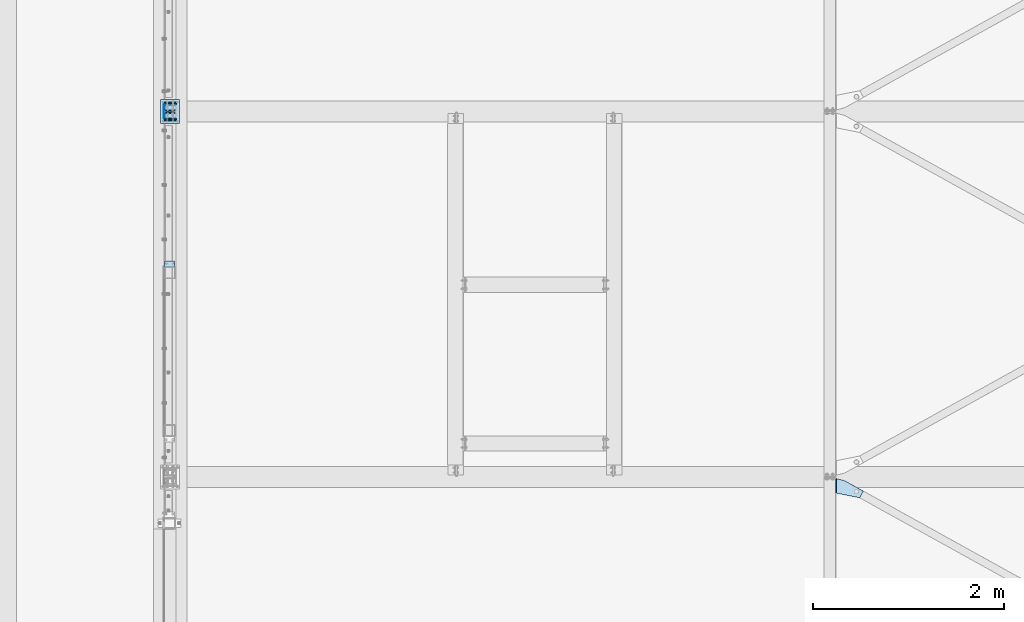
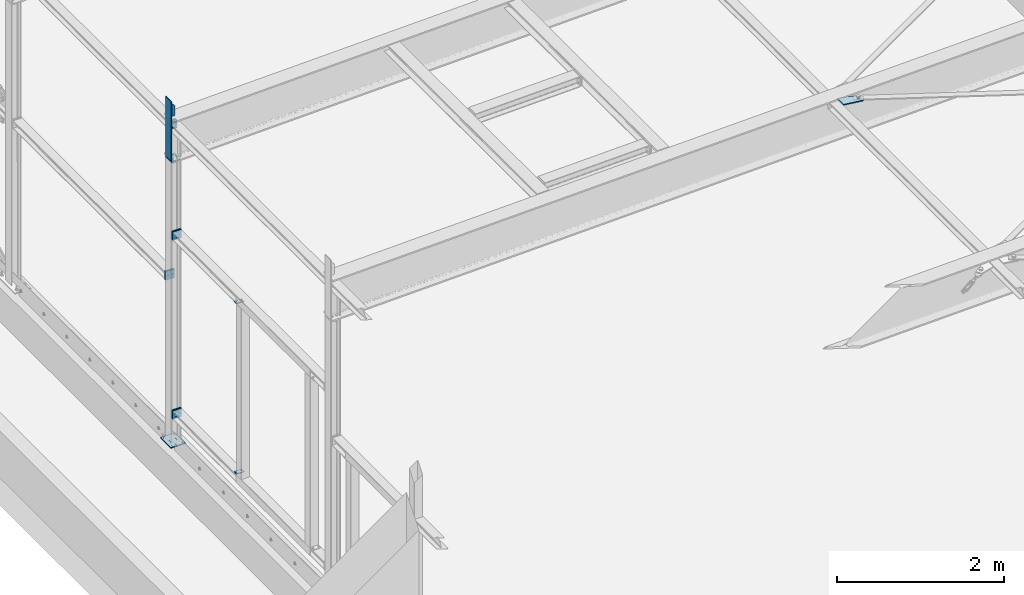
# One storey, part 37 of 476: 15 plates, 61 openings.
"""IFC2X3 building model written with IfcOpenShell, lengths in millimetres."""

import ifcopenshell
import ifcopenshell.guid

model = None  # the IFC model being written
_history = None  # IfcOwnerHistory: only IFC2X3 demands one
_inside = {}  # id of a spatial element -> (the spatial element, [elements in it])
_under = {}  # id of a project, library or spatial element -> (it, [spatial elements below it])
_declared = {}  # id of a project -> (the project, [libraries it declares])
_typed = {}  # id of a type object -> (the type object, [elements of that type])
_made_of = {}  # id of a material, layer set ... -> (it, [elements and type objects made of it])


def new_model(schema):
    """Start an empty IFC model of exactly this schema.

    Asked for "IFC4X3", IfcOpenShell would pick the latest addendum, in which some entities
    have other attributes; the version numbers below select the first issue.
    IFC2X3 requires an IfcOwnerHistory on every rooted entity: one is made here for all.
    """
    global model, _history
    if schema == "IFC4X3":
        model = ifcopenshell.file(schema_version=(4, 3, 0, 0))
    else:
        model = ifcopenshell.file(schema=schema)
    _inside.clear()
    _under.clear()
    _declared.clear()
    _typed.clear()
    _made_of.clear()
    _history = None
    if model.schema == "IFC2X3":
        org = make("IfcOrganization", Name="unknown")
        user = make(
            "IfcPersonAndOrganization",
            ThePerson=make("IfcPerson", FamilyName="unknown"),
            TheOrganization=org,
        )
        app = make(
            "IfcApplication",
            ApplicationDeveloper=org,
            Version="unknown",
            ApplicationFullName="unknown",
            ApplicationIdentifier="unknown",
        )
        _history = make(
            "IfcOwnerHistory",
            OwningUser=user,
            OwningApplication=app,
            ChangeAction="ADDED",
            CreationDate=0,
        )
    return model


def make(cls, **values):
    """One entity of the class cls with the attributes given. An attribute that is None is left unset."""
    return model.create_entity(
        cls, **{name: value for name, value in values.items() if value is not None}
    )


def entity(cls, *values):
    """Any entity or typed value of the class cls, its attributes in the order of the schema. None: left unset."""
    e = model.create_entity(cls)
    for i, value in enumerate(values):
        if value is not None:
            e[i] = value
    return e


def rooted(cls, **values):
    """An entity with a GlobalId (a new one), such as an element, a storey or a relation."""
    return make(cls, GlobalId=ifcopenshell.guid.new(), OwnerHistory=_history, **values)


def si_unit(unit_type, name, prefix=None):
    """IfcSIUnit, for example si_unit("LENGTHUNIT", "METRE", prefix="MILLI")."""
    return make("IfcSIUnit", UnitType=unit_type, Prefix=prefix, Name=name)


def converted_unit(unit_type, name, factor, base, dimensions=None, offset=None):
    """IfcConversionBasedUnit, such as the inch: factor (a typed value) times the base unit."""
    return make(
        "IfcConversionBasedUnit"
        if offset is None
        else "IfcConversionBasedUnitWithOffset",
        ConversionOffset=offset,
        Dimensions=None
        if dimensions is None
        else entity("IfcDimensionalExponents", *dimensions),
        UnitType=unit_type,
        Name=name,
        ConversionFactor=make(
            "IfcMeasureWithUnit", ValueComponent=factor, UnitComponent=base
        ),
    )


def assignment(units):
    """IfcUnitAssignment: the units of a project."""
    return None if units is None else make("IfcUnitAssignment", Units=units)


def point(xyz):
    """IfcCartesianPoint."""
    return None if xyz is None else make("IfcCartesianPoint", Coordinates=xyz)


def direction(xyz):
    """IfcDirection."""
    return None if xyz is None else make("IfcDirection", DirectionRatios=xyz)


def frame(location, z_axis=None, x_axis=None):
    """IfcAxis2Placement3D, a coordinate frame: its origin and axes. An axis left out is left unset."""
    return make(
        "IfcAxis2Placement3D",
        Location=point(location),
        Axis=direction(z_axis),
        RefDirection=direction(x_axis),
    )


def frame_2d(location, x_axis=None):
    """IfcAxis2Placement2D, a coordinate frame in the plane: its origin and x axis."""
    return make(
        "IfcAxis2Placement2D", Location=point(location), RefDirection=direction(x_axis)
    )


def origin():
    """The frame at (0, 0, 0) with its axes left unset."""
    return frame((0.0, 0.0, 0.0))


def origin_with_axes():
    """The frame at (0, 0, 0) with the z axis (0, 0, 1) and the x axis (1, 0, 0) written out."""
    return frame((0.0, 0.0, 0.0), z_axis=(0.0, 0.0, 1.0), x_axis=(1.0, 0.0, 0.0))


def origin_2d_with_axis():
    """The frame at (0, 0) in the plane with the x axis (1, 0) written out."""
    return frame_2d((0.0, 0.0), x_axis=(1.0, 0.0))


def place(relative_to, where):
    """IfcLocalPlacement: puts the frame where relative to a parent placement (None: the world)."""
    return make(
        "IfcLocalPlacement", PlacementRelTo=relative_to, RelativePlacement=where
    )


def context(
    kind, dimensions, precision=None, world=None, true_north=None, identifier=None
):
    """IfcGeometricRepresentationContext, for example the 3D "Model" context."""
    return make(
        "IfcGeometricRepresentationContext",
        ContextIdentifier=identifier,
        ContextType=kind,
        CoordinateSpaceDimension=dimensions,
        Precision=precision,
        WorldCoordinateSystem=world,
        TrueNorth=true_north,
    )


def project(units=None, contexts=None):
    """IfcProject with its units and contexts."""
    return rooted(
        "IfcProject",
        Name="project",
        RepresentationContexts=contexts,
        UnitsInContext=assignment(units),
    )


def spatial(cls, under=None, at=None, **own):
    """A site, building, storey or space (cls), placed at a placement, below another one or the project."""
    s = rooted(cls, ObjectPlacement=at, **own)
    if under is not None:
        _under.setdefault(under.id(), (under, []))[1].append(s)
    return s


def polyline(points):
    """IfcPolyline through the points."""
    return make("IfcPolyline", Points=[point(p) for p in points])


def circle_curve(where, radius):
    """IfcCircle in the frame where."""
    return make("IfcCircle", Position=where, Radius=radius)


def line_curve(start, along, magnitude):
    """IfcLine from a point along a vector."""
    return make(
        "IfcLine",
        Pnt=point(start),
        Dir=make("IfcVector", Orientation=direction(along), Magnitude=magnitude),
    )


def trimmed(basis, trim1, trim2, sense, master):
    """IfcTrimmedCurve: the piece of a basis curve between two trims."""
    return make(
        "IfcTrimmedCurve",
        BasisCurve=basis,
        Trim1=trim1,
        Trim2=trim2,
        SenseAgreement=sense,
        MasterRepresentation=master,
    )


def segment(curve, same_sense, transition):
    """IfcCompositeCurveSegment."""
    return make(
        "IfcCompositeCurveSegment",
        Transition=transition,
        SameSense=same_sense,
        ParentCurve=curve,
    )


def composite_curve(segments, self_intersect=None):
    """IfcCompositeCurve: segments joined end to end."""
    return make("IfcCompositeCurve", Segments=segments, SelfIntersect=self_intersect)


def profile(cls, at=None, kind="AREA", **sizes):
    """A parametric profile (cls). Its sizes go by their IFC names, for example OverallWidth=200.0."""
    return make(cls, ProfileType=kind, Position=at, **sizes)


def circle(**sizes):
    """IfcCircleProfileDef."""
    return profile("IfcCircleProfileDef", **sizes)


def outline(outer, holes=None, kind="AREA"):
    """IfcArbitraryClosedProfileDef: a profile drawn as a closed curve; with holes, ...WithVoids."""
    if holes is None:
        return make("IfcArbitraryClosedProfileDef", ProfileType=kind, OuterCurve=outer)
    return make(
        "IfcArbitraryProfileDefWithVoids",
        ProfileType=kind,
        OuterCurve=outer,
        InnerCurves=holes,
    )


def extrude(swept, where, along, depth):
    """IfcExtrudedAreaSolid: the profile swept, set in the frame where, extruded along a direction by depth."""
    return make(
        "IfcExtrudedAreaSolid",
        SweptArea=swept,
        Position=where,
        ExtrudedDirection=direction(along),
        Depth=depth,
    )


def shape(context_of_items, identifier, shape_type, items):
    """IfcShapeRepresentation: the items that make up one representation, for example the "Body"."""
    return make(
        "IfcShapeRepresentation",
        ContextOfItems=context_of_items,
        RepresentationIdentifier=identifier,
        RepresentationType=shape_type,
        Items=items,
    )


def material(Name=None, Category=None):
    """IfcMaterial."""
    return make("IfcMaterial", Name=Name, Category=Category)


def layer(
    of_material, thickness, ventilated=None, Name=None, Category=None, Priority=None
):
    """IfcMaterialLayer: one layer of a wall or slab, of a material (None: an air gap)."""
    return make(
        "IfcMaterialLayer",
        Material=of_material,
        LayerThickness=thickness,
        IsVentilated=ventilated,
        Name=Name,
        Category=Category,
        Priority=Priority,
    )


def layer_set(layers, Name=None):
    """IfcMaterialLayerSet."""
    return make("IfcMaterialLayerSet", MaterialLayers=layers, LayerSetName=Name)


def made_of(thing, what):
    """Note that an element or type object is made of a material, layer set ...; save() writes the relation."""
    if what is not None:
        _made_of.setdefault(what.id(), (what, []))[1].append(thing)
    return thing


def element(
    cls,
    number,
    at=None,
    inside=None,
    cuts=None,
    type_object=None,
    material=None,
    context=None,
    identifier="Body",
    shape_type=None,
    held_by="IfcProductDefinitionShape",
    body=None,
    shapes=None,
    **own,
):
    """One element of the class cls, such as IfcWall. Its Tag is "e" and its number.

    at: its placement. inside: the storey or other place that contains it. cuts: it is an
    opening in that element (IfcRelVoidsElement). A single representation is given by context,
    identifier, shape_type and body (its items); several are given by shapes. held_by: the class
    of the entity that holds the representations. save() writes the other relations.
    """
    e = rooted(cls, Tag="e%d" % number, ObjectPlacement=at, **own)
    if body is not None:
        shapes = [shape(context, identifier, shape_type, body)]
    if shapes is not None:
        e.Representation = make(held_by, Representations=shapes)
    if inside is not None:
        _inside.setdefault(inside.id(), (inside, []))[1].append(e)
    if cuts is not None:
        rooted(
            "IfcRelVoidsElement", RelatingBuildingElement=cuts, RelatedOpeningElement=e
        )
    if type_object is not None:
        _typed.setdefault(type_object.id(), (type_object, []))[1].append(e)
    return made_of(e, material)


def aggregate(whole, parts):
    """IfcRelAggregates: a whole, such as a stair, and the parts it consists of."""
    return rooted("IfcRelAggregates", RelatingObject=whole, RelatedObjects=parts)


def save(model, path):
    """Write the relations noted so far, then the file.

    IfcRelAggregates (storeys below a building ...), IfcRelContainedInSpatialStructure (elements
    in a storey), IfcRelDefinesByType, IfcRelAssociatesMaterial and IfcRelDeclares: one each for
    every whole, place, type object, material and project.
    """
    for whole, parts in _under.values():
        aggregate(whole, parts)
    for where, things in _inside.values():
        rooted(
            "IfcRelContainedInSpatialStructure",
            RelatedElements=things,
            RelatingStructure=where,
        )
    for kind, things in _typed.values():
        rooted("IfcRelDefinesByType", RelatedObjects=things, RelatingType=kind)
    for what, things in _made_of.values():
        rooted("IfcRelAssociatesMaterial", RelatedObjects=things, RelatingMaterial=what)
    for by, libraries in _declared.values():
        rooted("IfcRelDeclares", RelatingContext=by, RelatedDefinitions=libraries)
    model.write(path)


model = new_model("IFC2X3")

# Units and contexts
model_context = context("Model", 3, precision=1e-09, world=origin_with_axes())
ifc_project = project(units=[si_unit("LENGTHUNIT", "METRE", prefix="MILLI"), si_unit("AREAUNIT", "SQUARE_METRE"), si_unit("VOLUMEUNIT", "CUBIC_METRE"), converted_unit("PLANEANGLEUNIT", "DEGREE", entity("IfcPlaneAngleMeasure", 0.01745329), si_unit("PLANEANGLEUNIT", "RADIAN"), dimensions=[0, 0, 0, 0, 0, 0, 0])], contexts=[model_context])

# Site, building, storey
site_placement = place(None, origin_with_axes())
site = spatial("IfcSite", under=ifc_project, at=site_placement, Name="mKR Teilneubau & Sanierung BA1 - Ostfildern", CompositionType="ELEMENT")
building_placement = place(site_placement, origin_with_axes())
building = spatial("IfcBuilding", under=site, at=building_placement, Name="Struktur 1", CompositionType="ELEMENT")
storey_placement = place(building_placement, origin_with_axes())
storey = spatial("IfcBuildingStorey", under=building, at=storey_placement, Name="Default Storey", CompositionType="ELEMENT", Elevation=0.0)

# Plate, openings
ifc_material = material(Name="S235JR")
ifc_layer_1 = layer(ifc_material, 10.0)
ifc_layer_set_1 = layer_set([ifc_layer_1], Name="S235JR")
plate_1_placement = place(None, frame((8215.108804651, -15130.316467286, 3539.999982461), z_axis=(0.0, 0.0, -1.0), x_axis=(0.0, -1.0, 0.0)))
plate_1 = element("IfcPlate", 1, at=plate_1_placement, inside=storey, material=ifc_layer_set_1, Name="Endplate", ObjectType="Endplate", context=model_context, shape_type="SweptSolid", body=[
    extrude(outline(polyline([(20.0, 2.5), (80.0, 2.5), (80.0, 109.5), (20.0, 109.5), (20.0, 2.5)])), origin_with_axes(), (0.0, 0.0, 1.0), 10.0),
])
opening_1_placement = place(plate_1_placement, frame((45.0, 56.0, 10.5), z_axis=(0.0, 0.0, -1.0), x_axis=(1.0, 0.0, 0.0)))
element("IfcOpeningElement", 2, at=opening_1_placement, cuts=plate_1, ObjectType="Opening", context=model_context, shape_type="SweptSolid", body=[
    extrude(circle(Radius=6.501, at=frame_2d((0.0, 35.0), x_axis=(1.0, 0.0))), origin(), (0.0, 0.0, 1.0), 11.0),
])
opening_2_placement = place(plate_1_placement, frame((45.0, 56.0, 10.5), z_axis=(0.0, 0.0, -1.0), x_axis=(1.0, 0.0, 0.0)))
element("IfcOpeningElement", 3, at=opening_2_placement, cuts=plate_1, ObjectType="Opening", context=model_context, shape_type="SweptSolid", body=[
    extrude(circle(Radius=6.501, at=frame_2d((0.0, -35.0), x_axis=(1.0, 0.0))), origin(), (0.0, 0.0, 1.0), 11.0),
])

plate_2_placement = place(None, frame((8215.108804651, -15130.316467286, 1040.0), z_axis=(0.0, 0.0, -1.0), x_axis=(0.0, -1.0, 0.0)))
plate_2 = element("IfcPlate", 4, at=plate_2_placement, inside=storey, material=ifc_layer_set_1, Name="Endplate", ObjectType="Endplate", context=model_context, shape_type="SweptSolid", body=[
    extrude(outline(polyline([(20.0, 2.5), (80.0, 2.5), (80.0, 109.5), (20.0, 109.5), (20.0, 2.5)])), origin_with_axes(), (0.0, 0.0, -1.0), 10.0),
])
opening_3_placement = place(plate_2_placement, frame((45.0, 56.0, 0.5), z_axis=(0.0, 0.0, -1.0), x_axis=(1.0, 0.0, 0.0)))
element("IfcOpeningElement", 5, at=opening_3_placement, cuts=plate_2, ObjectType="Opening", context=model_context, shape_type="SweptSolid", body=[
    extrude(circle(Radius=6.501, at=frame_2d((0.0, 35.0), x_axis=(1.0, 0.0))), origin(), (0.0, 0.0, 1.0), 11.0),
])
opening_4_placement = place(plate_2_placement, frame((45.0, 56.0, 0.5), z_axis=(0.0, 0.0, -1.0), x_axis=(1.0, 0.0, 0.0)))
element("IfcOpeningElement", 6, at=opening_4_placement, cuts=plate_2, ObjectType="Opening", context=model_context, shape_type="SweptSolid", body=[
    extrude(circle(Radius=6.501, at=frame_2d((0.0, -35.0), x_axis=(1.0, 0.0))), origin(), (0.0, 0.0, 1.0), 11.0),
])

plate_3_placement = place(None, frame((8189.108764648, -13580.67387897, 5472.548796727), z_axis=(0.0, -1.0, 0.0), x_axis=(-1.0, 0.0, 0.0)))
plate_3 = element("IfcPlate", 7, at=plate_3_placement, inside=storey, material=ifc_layer_set_1, Name="-", ObjectType="-", context=model_context, shape_type="SweptSolid", body=[
    extrude(outline(polyline([(0.0, 0.0), (80.0, 0.0), (80.0, 200.0), (0.0, 197.595559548), (0.0, 0.0)])), origin_with_axes(), (0.0, 0.0, 1.0), 10.0),
])
opening_5_placement = place(plate_3_placement, frame((0.0, 0.0, -0.01), z_axis=(0.0, 0.0, 1.0), x_axis=(1.0, 0.0, 0.0)))
element("IfcOpeningElement", 8, at=opening_5_placement, cuts=plate_3, ObjectType="Opening", context=model_context, shape_type="SweptSolid", body=[
    extrude(outline(polyline([(0.0, 0.0), (50.0, 0.0), (0.0, 50.0), (0.0, 0.0)])), origin(), (0.0, 0.0, 1.0), 10.02),
])
opening_6_placement = place(plate_3_placement, frame((0.0, 0.0, -0.01), z_axis=(0.0, 0.0, 1.0), x_axis=(1.0, 0.0, 0.0)))
element("IfcOpeningElement", 9, at=opening_6_placement, cuts=plate_3, ObjectType="Opening", context=model_context, shape_type="SweptSolid", body=[
    extrude(outline(polyline([(80.0, 200.0), (60.009027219, 199.399161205), (80.0, 180.0), (80.0, 200.0)])), origin(), (0.0, 0.0, 1.0), 10.02),
])

ifc_layer_2 = layer(ifc_material, 15.0)
ifc_layer_set_2 = layer_set([ifc_layer_2], Name="S235JR")
plate_4_placement = place(None, frame((8165.608780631, -13685.67387897, 3597.0), z_axis=(0.0, 1.0, 0.0), x_axis=(0.0, 0.0, -1.0)))
plate_4 = element("IfcPlate", 10, at=plate_4_placement, inside=storey, material=ifc_layer_set_2, Name="Endplate#1", ObjectType="Endplate#1", context=model_context, shape_type="SweptSolid", body=[
    extrude(outline(polyline([(-62.0, -62.0), (62.0, -62.0), (62.0, 62.0), (-62.0, 62.0), (-62.0, -62.0)])), origin_with_axes(), (0.0, 0.0, 1.0), 15.0),
])
opening_7_placement = place(plate_4_placement, frame((37.0, 14.5, 15.5), z_axis=(0.0, 0.0, -1.0), x_axis=(-1.0, 0.0, 0.0)))
element("IfcOpeningElement", 11, at=opening_7_placement, cuts=plate_4, ObjectType="Opening", context=model_context, shape_type="SweptSolid", body=[
    extrude(circle(Radius=6.001, at=origin_2d_with_axis()), origin(), (0.0, 0.0, 1.0), 16.0),
])
opening_8_placement = place(plate_4_placement, frame((-37.0, 14.5, 15.5), z_axis=(0.0, 0.0, -1.0), x_axis=(-1.0, 0.0, 0.0)))
element("IfcOpeningElement", 12, at=opening_8_placement, cuts=plate_4, ObjectType="Opening", context=model_context, shape_type="SweptSolid", body=[
    extrude(circle(Radius=6.001, at=origin_2d_with_axis()), origin(), (0.0, 0.0, 1.0), 16.0),
])
opening_9_placement = place(plate_4_placement, frame((-37.0, -14.5, 15.5), z_axis=(0.0, 0.0, -1.0), x_axis=(-1.0, 0.0, 0.0)))
element("IfcOpeningElement", 13, at=opening_9_placement, cuts=plate_4, ObjectType="Opening", context=model_context, shape_type="SweptSolid", body=[
    extrude(circle(Radius=6.001, at=origin_2d_with_axis()), origin(), (0.0, 0.0, 1.0), 16.0),
])
opening_10_placement = place(plate_4_placement, frame((37.0, -14.5, 15.5), z_axis=(0.0, 0.0, -1.0), x_axis=(-1.0, 0.0, 0.0)))
element("IfcOpeningElement", 14, at=opening_10_placement, cuts=plate_4, ObjectType="Opening", context=model_context, shape_type="SweptSolid", body=[
    extrude(circle(Radius=6.001, at=origin_2d_with_axis()), origin(), (0.0, 0.0, 1.0), 16.0),
])
opening_11_placement = place(plate_4_placement, frame((0.0, 30.0, 15.5), z_axis=(0.0, 0.0, -1.0), x_axis=(-1.0, 0.0, 0.0)))
element("IfcOpeningElement", 15, at=opening_11_placement, cuts=plate_4, ObjectType="Opening", context=model_context, shape_type="SweptSolid", body=[
    extrude(circle(Radius=7.001, at=origin_2d_with_axis()), origin(), (0.0, 0.0, 1.0), 16.0),
])
opening_12_placement = place(plate_4_placement, frame((0.0, -30.0, 15.5), z_axis=(0.0, 0.0, -1.0), x_axis=(0.0, -1.0, 0.0)))
element("IfcOpeningElement", 16, at=opening_12_placement, cuts=plate_4, ObjectType="Opening", context=model_context, shape_type="SweptSolid", body=[
    extrude(circle(Radius=7.001, at=origin_2d_with_axis()), origin(), (0.0, 0.0, 1.0), 16.0),
])

plate_5_placement = place(None, frame((8165.608764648, -13655.67387897, 3597.0), z_axis=(0.0, -1.0, 0.0), x_axis=(-1.0, 0.0, 0.0)))
plate_5 = element("IfcPlate", 17, at=plate_5_placement, inside=storey, material=ifc_layer_set_2, Name="T-plate", ObjectType="T-plate", context=model_context, shape_type="SweptSolid", body=[
    extrude(outline(polyline([(-62.0, -62.0), (62.0, -62.0), (62.0, 62.0), (-62.0, 62.0), (-62.0, -62.0)])), origin_with_axes(), (0.0, 0.0, 1.0), 15.0),
])
opening_13_placement = place(plate_5_placement, frame((29.999984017, 0.0, -0.5), z_axis=(0.0, 0.0, 1.0), x_axis=(0.0, -1.0, 0.0)))
element("IfcOpeningElement", 18, at=opening_13_placement, cuts=plate_5, ObjectType="Opening", context=model_context, shape_type="SweptSolid", body=[
    extrude(circle(Radius=7.001, at=origin_2d_with_axis()), origin(), (0.0, 0.0, 1.0), 16.0),
])
opening_14_placement = place(plate_5_placement, frame((-30.000015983, 0.0, -0.5), z_axis=(0.0, 0.0, 1.0), x_axis=(-1.0, 0.0, 0.0)))
element("IfcOpeningElement", 19, at=opening_14_placement, cuts=plate_5, ObjectType="Opening", context=model_context, shape_type="SweptSolid", body=[
    extrude(circle(Radius=7.001, at=origin_2d_with_axis()), origin(), (0.0, 0.0, 1.0), 16.0),
])

plate_6_placement = place(None, frame((8165.608780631, -13685.67387897, 983.0), z_axis=(0.0, 1.0, 0.0), x_axis=(0.0, 0.0, -1.0)))
plate_6 = element("IfcPlate", 20, at=plate_6_placement, inside=storey, material=ifc_layer_set_2, Name="Endplate#1", ObjectType="Endplate#1", context=model_context, shape_type="SweptSolid", body=[
    extrude(outline(polyline([(-62.0, -62.0), (62.0, -62.0), (62.0, 62.0), (-62.0, 62.0), (-62.0, -62.0)])), origin_with_axes(), (0.0, 0.0, 1.0), 15.0),
])
opening_15_placement = place(plate_6_placement, frame((37.0, 14.5, 15.5), z_axis=(0.0, 0.0, -1.0), x_axis=(-1.0, 0.0, 0.0)))
element("IfcOpeningElement", 21, at=opening_15_placement, cuts=plate_6, ObjectType="Opening", context=model_context, shape_type="SweptSolid", body=[
    extrude(circle(Radius=6.001, at=origin_2d_with_axis()), origin(), (0.0, 0.0, 1.0), 16.0),
])
opening_16_placement = place(plate_6_placement, frame((-37.0, 14.5, 15.5), z_axis=(0.0, 0.0, -1.0), x_axis=(-1.0, 0.0, 0.0)))
element("IfcOpeningElement", 22, at=opening_16_placement, cuts=plate_6, ObjectType="Opening", context=model_context, shape_type="SweptSolid", body=[
    extrude(circle(Radius=6.001, at=origin_2d_with_axis()), origin(), (0.0, 0.0, 1.0), 16.0),
])
opening_17_placement = place(plate_6_placement, frame((-37.0, -14.5, 15.5), z_axis=(0.0, 0.0, -1.0), x_axis=(-1.0, 0.0, 0.0)))
element("IfcOpeningElement", 23, at=opening_17_placement, cuts=plate_6, ObjectType="Opening", context=model_context, shape_type="SweptSolid", body=[
    extrude(circle(Radius=6.001, at=origin_2d_with_axis()), origin(), (0.0, 0.0, 1.0), 16.0),
])
opening_18_placement = place(plate_6_placement, frame((37.0, -14.5, 15.5), z_axis=(0.0, 0.0, -1.0), x_axis=(-1.0, 0.0, 0.0)))
element("IfcOpeningElement", 24, at=opening_18_placement, cuts=plate_6, ObjectType="Opening", context=model_context, shape_type="SweptSolid", body=[
    extrude(circle(Radius=6.001, at=origin_2d_with_axis()), origin(), (0.0, 0.0, 1.0), 16.0),
])
opening_19_placement = place(plate_6_placement, frame((0.0, -30.0, 15.5), z_axis=(0.0, 0.0, -1.0), x_axis=(0.0, -1.0, 0.0)))
element("IfcOpeningElement", 25, at=opening_19_placement, cuts=plate_6, ObjectType="Opening", context=model_context, shape_type="SweptSolid", body=[
    extrude(circle(Radius=7.001, at=origin_2d_with_axis()), origin(), (0.0, 0.0, 1.0), 16.0),
])
opening_20_placement = place(plate_6_placement, frame((0.0, 30.0, 15.5), z_axis=(0.0, 0.0, -1.0), x_axis=(-1.0, 0.0, 0.0)))
element("IfcOpeningElement", 26, at=opening_20_placement, cuts=plate_6, ObjectType="Opening", context=model_context, shape_type="SweptSolid", body=[
    extrude(circle(Radius=7.001, at=origin_2d_with_axis()), origin(), (0.0, 0.0, 1.0), 16.0),
])

plate_7_placement = place(None, frame((8165.608764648, -13655.67387897, 983.0), z_axis=(0.0, -1.0, 0.0), x_axis=(-1.0, 0.0, 0.0)))
plate_7 = element("IfcPlate", 27, at=plate_7_placement, inside=storey, material=ifc_layer_set_2, Name="T-plate", ObjectType="T-plate", context=model_context, shape_type="SweptSolid", body=[
    extrude(outline(polyline([(-62.0, -62.0), (62.0, -62.0), (62.0, 62.0), (-62.0, 62.0), (-62.0, -62.0)])), origin_with_axes(), (0.0, 0.0, 1.0), 15.0),
])
opening_21_placement = place(plate_7_placement, frame((-30.000015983, 0.0, -0.5), z_axis=(0.0, 0.0, 1.0), x_axis=(-1.0, 0.0, 0.0)))
element("IfcOpeningElement", 28, at=opening_21_placement, cuts=plate_7, ObjectType="Opening", context=model_context, shape_type="SweptSolid", body=[
    extrude(circle(Radius=7.001, at=origin_2d_with_axis()), origin(), (0.0, 0.0, 1.0), 16.0),
])
opening_22_placement = place(plate_7_placement, frame((29.999984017, 0.0, -0.5), z_axis=(0.0, 0.0, 1.0), x_axis=(0.0, -1.0, 0.0)))
element("IfcOpeningElement", 29, at=opening_22_placement, cuts=plate_7, ObjectType="Opening", context=model_context, shape_type="SweptSolid", body=[
    extrude(circle(Radius=7.001, at=origin_2d_with_axis()), origin(), (0.0, 0.0, 1.0), 16.0),
])

plate_8_placement = place(None, frame((8265.608764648, -13460.67387897, 540.0), z_axis=(0.0, 0.0, -1.0), x_axis=(0.0, -1.0, 0.0)))
plate_8 = element("IfcPlate", 30, at=plate_8_placement, inside=storey, material=ifc_layer_set_2, Name="Baseplate", ObjectType="Baseplate", context=model_context, shape_type="SweptSolid", body=[
    extrude(outline(polyline([(0.0, 0.0), (250.0, 0.0), (250.0, 200.0), (0.0, 200.0), (0.0, 0.0)])), origin_with_axes(), (0.0, 0.0, 1.0), 15.0),
])
opening_23_placement = place(plate_8_placement, frame((110.25, 146.0, 15.5), z_axis=(0.0, 0.0, -1.0), x_axis=(0.0, -1.0, 0.0)))
element("IfcOpeningElement", 31, at=opening_23_placement, cuts=plate_8, ObjectType="Opening", context=model_context, shape_type="SweptSolid", body=[
    extrude(circle(Radius=6.001, at=origin_2d_with_axis()), origin(), (0.0, 0.0, 1.0), 16.0),
])
opening_24_placement = place(plate_8_placement, frame((110.25, 54.0, 15.5), z_axis=(0.0, 0.0, -1.0), x_axis=(0.0, -1.0, 0.0)))
element("IfcOpeningElement", 32, at=opening_24_placement, cuts=plate_8, ObjectType="Opening", context=model_context, shape_type="SweptSolid", body=[
    extrude(circle(Radius=6.001, at=origin_2d_with_axis()), origin(), (0.0, 0.0, 1.0), 16.0),
])
opening_25_placement = place(plate_8_placement, frame((139.75, 54.0, 15.5), z_axis=(0.0, 0.0, -1.0), x_axis=(0.0, -1.0, 0.0)))
element("IfcOpeningElement", 33, at=opening_25_placement, cuts=plate_8, ObjectType="Opening", context=model_context, shape_type="SweptSolid", body=[
    extrude(circle(Radius=6.001, at=origin_2d_with_axis()), origin(), (0.0, 0.0, 1.0), 16.0),
])
opening_26_placement = place(plate_8_placement, frame((139.75, 146.0, 15.5), z_axis=(0.0, 0.0, -1.0), x_axis=(0.0, -1.0, 0.0)))
element("IfcOpeningElement", 34, at=opening_26_placement, cuts=plate_8, ObjectType="Opening", context=model_context, shape_type="SweptSolid", body=[
    extrude(circle(Radius=6.001, at=origin_2d_with_axis()), origin(), (0.0, 0.0, 1.0), 16.0),
])
opening_27_placement = place(plate_8_placement, frame((125.0, 100.0, 15.5), z_axis=(0.0, 0.0, -1.0), x_axis=(1.0, 0.0, 0.0)))
element("IfcOpeningElement", 35, at=opening_27_placement, cuts=plate_8, ObjectType="Opening", context=model_context, shape_type="SweptSolid", body=[
    extrude(circle(Radius=6.001, at=frame_2d((100.0, 75.0), x_axis=(1.0, 0.0))), origin(), (0.0, 0.0, 1.0), 16.0),
])
opening_28_placement = place(plate_8_placement, frame((125.0, 100.0, 15.5), z_axis=(0.0, 0.0, -1.0), x_axis=(1.0, 0.0, 0.0)))
element("IfcOpeningElement", 36, at=opening_28_placement, cuts=plate_8, ObjectType="Opening", context=model_context, shape_type="SweptSolid", body=[
    extrude(circle(Radius=6.001, at=frame_2d((-100.0, 75.0), x_axis=(1.0, 0.0))), origin(), (0.0, 0.0, 1.0), 16.0),
])
opening_29_placement = place(plate_8_placement, frame((125.0, 100.0, 15.5), z_axis=(0.0, 0.0, -1.0), x_axis=(1.0, 0.0, 0.0)))
element("IfcOpeningElement", 37, at=opening_29_placement, cuts=plate_8, ObjectType="Opening", context=model_context, shape_type="SweptSolid", body=[
    extrude(circle(Radius=6.001, at=frame_2d((100.0, -75.0), x_axis=(1.0, 0.0))), origin(), (0.0, 0.0, 1.0), 16.0),
])
opening_30_placement = place(plate_8_placement, frame((125.0, 100.0, 15.5), z_axis=(0.0, 0.0, -1.0), x_axis=(1.0, 0.0, 0.0)))
element("IfcOpeningElement", 38, at=opening_30_placement, cuts=plate_8, ObjectType="Opening", context=model_context, shape_type="SweptSolid", body=[
    extrude(circle(Radius=6.001, at=frame_2d((-100.0, -75.0), x_axis=(1.0, 0.0))), origin(), (0.0, 0.0, 1.0), 16.0),
])

plate_9_placement = place(None, frame((8165.608780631, -13485.67387897, 2912.000017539), z_axis=(0.0, -1.0, 0.0), x_axis=(0.0, 0.0, -1.0)))
plate_9 = element("IfcPlate", 39, at=plate_9_placement, inside=storey, material=ifc_layer_set_2, Name="Endplate#1", ObjectType="Endplate#1", context=model_context, shape_type="SweptSolid", body=[
    extrude(outline(polyline([(-62.0, -62.0), (62.0, -62.0), (62.0, 62.0), (-62.0, 62.0), (-62.0, -62.0)])), origin_with_axes(), (0.0, 0.0, 1.0), 15.0),
])
opening_31_placement = place(plate_9_placement, frame((37.0, -14.5, 15.5), z_axis=(0.0, 0.0, -1.0), x_axis=(1.0, 0.0, 0.0)))
element("IfcOpeningElement", 40, at=opening_31_placement, cuts=plate_9, ObjectType="Opening", context=model_context, shape_type="SweptSolid", body=[
    extrude(circle(Radius=6.001, at=origin_2d_with_axis()), origin(), (0.0, 0.0, 1.0), 16.0),
])
opening_32_placement = place(plate_9_placement, frame((-37.0, -14.5, 15.5), z_axis=(0.0, 0.0, -1.0), x_axis=(1.0, 0.0, 0.0)))
element("IfcOpeningElement", 41, at=opening_32_placement, cuts=plate_9, ObjectType="Opening", context=model_context, shape_type="SweptSolid", body=[
    extrude(circle(Radius=6.001, at=origin_2d_with_axis()), origin(), (0.0, 0.0, 1.0), 16.0),
])
opening_33_placement = place(plate_9_placement, frame((-37.0, 14.5, 15.5), z_axis=(0.0, 0.0, -1.0), x_axis=(1.0, 0.0, 0.0)))
element("IfcOpeningElement", 42, at=opening_33_placement, cuts=plate_9, ObjectType="Opening", context=model_context, shape_type="SweptSolid", body=[
    extrude(circle(Radius=6.001, at=origin_2d_with_axis()), origin(), (0.0, 0.0, 1.0), 16.0),
])
opening_34_placement = place(plate_9_placement, frame((37.0, 14.5, 15.5), z_axis=(0.0, 0.0, -1.0), x_axis=(1.0, 0.0, 0.0)))
element("IfcOpeningElement", 43, at=opening_34_placement, cuts=plate_9, ObjectType="Opening", context=model_context, shape_type="SweptSolid", body=[
    extrude(circle(Radius=6.001, at=origin_2d_with_axis()), origin(), (0.0, 0.0, 1.0), 16.0),
])
opening_35_placement = place(plate_9_placement, frame((0.0, 30.0, 15.5), z_axis=(0.0, 0.0, -1.0), x_axis=(-1.0, 0.0, 0.0)))
element("IfcOpeningElement", 44, at=opening_35_placement, cuts=plate_9, ObjectType="Opening", context=model_context, shape_type="SweptSolid", body=[
    extrude(circle(Radius=7.001, at=origin_2d_with_axis()), origin(), (0.0, 0.0, 1.0), 16.0),
])
opening_36_placement = place(plate_9_placement, frame((0.0, -30.0, 15.5), z_axis=(0.0, 0.0, -1.0), x_axis=(0.0, -1.0, 0.0)))
element("IfcOpeningElement", 45, at=opening_36_placement, cuts=plate_9, ObjectType="Opening", context=model_context, shape_type="SweptSolid", body=[
    extrude(circle(Radius=7.001, at=origin_2d_with_axis()), origin(), (0.0, 0.0, 1.0), 16.0),
])

plate_10_placement = place(None, frame((8165.608764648, -13515.67387897, 2912.000017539), z_axis=(0.0, 1.0, 0.0), x_axis=(1.0, 0.0, 0.0)))
plate_10 = element("IfcPlate", 46, at=plate_10_placement, inside=storey, material=ifc_layer_set_2, Name="T-plate", ObjectType="T-plate", context=model_context, shape_type="SweptSolid", body=[
    extrude(outline(polyline([(-62.0, -62.0), (62.0, -62.0), (62.0, 62.0), (-62.0, 62.0), (-62.0, -62.0)])), origin_with_axes(), (0.0, 0.0, 1.0), 15.0),
])
opening_37_placement = place(plate_10_placement, frame((-29.999984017, 0.0, -0.5), z_axis=(0.0, 0.0, 1.0), x_axis=(-1.0, 0.0, 0.0)))
element("IfcOpeningElement", 47, at=opening_37_placement, cuts=plate_10, ObjectType="Opening", context=model_context, shape_type="SweptSolid", body=[
    extrude(circle(Radius=7.001, at=origin_2d_with_axis()), origin(), (0.0, 0.0, 1.0), 16.0),
])
opening_38_placement = place(plate_10_placement, frame((30.000015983, 0.0, -0.5), z_axis=(0.0, 0.0, 1.0), x_axis=(0.0, -1.0, 0.0)))
element("IfcOpeningElement", 48, at=opening_38_placement, cuts=plate_10, ObjectType="Opening", context=model_context, shape_type="SweptSolid", body=[
    extrude(circle(Radius=7.001, at=origin_2d_with_axis()), origin(), (0.0, 0.0, 1.0), 16.0),
])

# Plate
plate_11_placement = place(None, frame((8109.108764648, -13515.67387897, 4677.27785786), z_axis=(-1.0, 0.0, 0.0), x_axis=(0.0, -1.0, 0.0)))
element("IfcPlate", 49, at=plate_11_placement, inside=storey, material=ifc_layer_set_1, Name="Coverplate", ObjectType="Coverplate", context=model_context, shape_type="SweptSolid", body=[
    extrude(outline(polyline([(0.0, 0.0), (140.0, 0.0), (140.0, 870.270938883), (0.0, 870.270938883), (0.0, 0.0)])), origin_with_axes(), (0.0, 0.0, 1.0), 10.0),
])

# Plate, openings
ifc_layer_3 = layer(ifc_material, 20.0)
ifc_layer_set_3 = layer_set([ifc_layer_3], Name="S235JR")
plate_12_placement = place(None, frame((8104.106507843, -13515.67387897, 4652.118481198), z_axis=(-0.030041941, 0.0, 0.999548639), x_axis=(0.0, -1.0, 0.0)))
plate_12 = element("IfcPlate", 50, at=plate_12_placement, inside=storey, material=ifc_layer_set_3, Name="Endplate", ObjectType="Endplate", context=model_context, shape_type="SweptSolid", body=[
    extrude(outline(polyline([(0.0, 0.0), (140.0, 0.0), (140.0, 123.060058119), (0.0, 123.060058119), (0.0, 0.0)])), origin_with_axes(), (0.0, 0.0, 1.0), 20.0),
])
opening_39_placement = place(plate_12_placement, frame((55.25, 15.503838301, 20.5), z_axis=(0.0, 0.0, -1.0), x_axis=(0.0, -1.0, 0.0)))
element("IfcOpeningElement", 51, at=opening_39_placement, cuts=plate_12, ObjectType="Opening", context=model_context, shape_type="SweptSolid", body=[
    extrude(circle(Radius=6.001, at=origin_2d_with_axis()), origin(), (0.0, 0.0, 1.0), 21.0),
])
opening_40_placement = place(plate_12_placement, frame((55.25, 107.556219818, 20.5), z_axis=(0.0, 0.0, -1.0), x_axis=(0.0, -1.0, 0.0)))
element("IfcOpeningElement", 52, at=opening_40_placement, cuts=plate_12, ObjectType="Opening", context=model_context, shape_type="SweptSolid", body=[
    extrude(circle(Radius=6.001, at=origin_2d_with_axis()), origin(), (0.0, 0.0, 1.0), 21.0),
])
opening_41_placement = place(plate_12_placement, frame((84.75, 107.556219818, 20.5), z_axis=(0.0, 0.0, -1.0), x_axis=(0.0, -1.0, 0.0)))
element("IfcOpeningElement", 53, at=opening_41_placement, cuts=plate_12, ObjectType="Opening", context=model_context, shape_type="SweptSolid", body=[
    extrude(circle(Radius=6.001, at=origin_2d_with_axis()), origin(), (0.0, 0.0, 1.0), 21.0),
])
opening_42_placement = place(plate_12_placement, frame((84.75, 15.503838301, 20.5), z_axis=(0.0, 0.0, -1.0), x_axis=(0.0, -1.0, 0.0)))
element("IfcOpeningElement", 54, at=opening_42_placement, cuts=plate_12, ObjectType="Opening", context=model_context, shape_type="SweptSolid", body=[
    extrude(circle(Radius=6.001, at=origin_2d_with_axis()), origin(), (0.0, 0.0, 1.0), 21.0),
])
opening_43_placement = place(plate_12_placement, frame((107.999, 34.03, -0.5), z_axis=(0.0, 0.0, -1.0), x_axis=(-1.0, 0.0, 0.0)))
element("IfcOpeningElement", 55, at=opening_43_placement, cuts=plate_12, ObjectType="Opening", context=model_context, shape_type="SweptSolid", body=[
    extrude(circle(Radius=7.001, at=frame_2d((-7.001, 0.0), x_axis=(1.0, 0.0))), origin(), (0.0, 0.0, -1.0), 21.0),
])
opening_44_placement = place(plate_12_placement, frame((107.999, 89.03, -0.5), z_axis=(0.0, 0.0, -1.0), x_axis=(-1.0, 0.0, 0.0)))
element("IfcOpeningElement", 56, at=opening_44_placement, cuts=plate_12, ObjectType="Opening", context=model_context, shape_type="SweptSolid", body=[
    extrude(circle(Radius=7.001, at=frame_2d((-7.001, 0.0), x_axis=(1.0, 0.0))), origin(), (0.0, 0.0, -1.0), 21.0),
])
opening_45_placement = place(plate_12_placement, frame((17.999, 34.03, -0.5), z_axis=(0.0, 0.0, -1.0), x_axis=(-1.0, 0.0, 0.0)))
element("IfcOpeningElement", 57, at=opening_45_placement, cuts=plate_12, ObjectType="Opening", context=model_context, shape_type="SweptSolid", body=[
    extrude(circle(Radius=7.001, at=frame_2d((-7.001, 0.0), x_axis=(1.0, 0.0))), origin(), (0.0, 0.0, -1.0), 21.0),
])
opening_46_placement = place(plate_12_placement, frame((17.999, 89.03, -0.5), z_axis=(0.0, 0.0, -1.0), x_axis=(-1.0, 0.0, 0.0)))
element("IfcOpeningElement", 58, at=opening_46_placement, cuts=plate_12, ObjectType="Opening", context=model_context, shape_type="SweptSolid", body=[
    extrude(circle(Radius=7.001, at=frame_2d((-7.001, 0.0), x_axis=(1.0, 0.0))), origin(), (0.0, 0.0, -1.0), 21.0),
])

ifc_layer_4 = layer(ifc_material, 12.0)
ifc_layer_set_4 = layer_set([ifc_layer_4], Name="S235JR")
plate_13_placement = place(None, frame((8118.766491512, -13579.67387897, 5217.841340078), z_axis=(0.0, 1.0, 0.0), x_axis=(0.999548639, 0.0, 0.030041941)))
plate_13 = element("IfcPlate", 59, at=plate_13_placement, inside=storey, material=ifc_layer_set_4, Name="Endplate", ObjectType="Endplate", context=model_context, shape_type="SweptSolid", body=[
    extrude(outline(polyline([(0.0, 0.0), (90.0, 0.0), (90.0, 124.0), (0.0, 124.0), (0.0, 0.0)])), origin_with_axes(), (0.0, 0.0, 1.0), 12.0),
])
opening_47_placement = place(plate_13_placement, frame((20.0, 62.0, -0.5), z_axis=(0.0, 0.0, 1.0), x_axis=(0.0, -1.0, 0.0)))
element("IfcOpeningElement", 60, at=opening_47_placement, cuts=plate_13, ObjectType="Opening", context=model_context, shape_type="SweptSolid", body=[
    extrude(circle(Radius=7.001, at=origin_2d_with_axis()), origin(), (0.0, 0.0, 1.0), 13.0),
])
opening_48_placement = place(plate_13_placement, frame((70.0, 62.0, -0.5), z_axis=(0.0, 0.0, 1.0), x_axis=(0.0, -1.0, 0.0)))
element("IfcOpeningElement", 61, at=opening_48_placement, cuts=plate_13, ObjectType="Opening", context=model_context, shape_type="SweptSolid", body=[
    extrude(circle(Radius=7.001, at=origin_2d_with_axis()), origin(), (0.0, 0.0, 1.0), 13.0),
])
opening_49_placement = place(plate_13_placement, frame((30.5, 99.0, -0.5), z_axis=(0.0, 0.0, 1.0), x_axis=(0.0, 1.0, 0.0)))
element("IfcOpeningElement", 62, at=opening_49_placement, cuts=plate_13, ObjectType="Opening", context=model_context, shape_type="SweptSolid", body=[
    extrude(circle(Radius=6.001, at=origin_2d_with_axis()), origin(), (0.0, 0.0, 1.0), 13.0),
])
opening_50_placement = place(plate_13_placement, frame((30.5, 25.0, -0.5), z_axis=(0.0, 0.0, 1.0), x_axis=(0.0, 1.0, 0.0)))
element("IfcOpeningElement", 63, at=opening_50_placement, cuts=plate_13, ObjectType="Opening", context=model_context, shape_type="SweptSolid", body=[
    extrude(circle(Radius=6.001, at=origin_2d_with_axis()), origin(), (0.0, 0.0, 1.0), 13.0),
])
opening_51_placement = place(plate_13_placement, frame((59.5, 25.0, -0.5), z_axis=(0.0, 0.0, 1.0), x_axis=(0.0, 1.0, 0.0)))
element("IfcOpeningElement", 64, at=opening_51_placement, cuts=plate_13, ObjectType="Opening", context=model_context, shape_type="SweptSolid", body=[
    extrude(circle(Radius=6.001, at=origin_2d_with_axis()), origin(), (0.0, 0.0, 1.0), 13.0),
])
opening_52_placement = place(plate_13_placement, frame((59.5, 99.0, -0.5), z_axis=(0.0, 0.0, 1.0), x_axis=(0.0, 1.0, 0.0)))
element("IfcOpeningElement", 65, at=opening_52_placement, cuts=plate_13, ObjectType="Opening", context=model_context, shape_type="SweptSolid", body=[
    extrude(circle(Radius=6.001, at=origin_2d_with_axis()), origin(), (0.0, 0.0, 1.0), 13.0),
])

plate_14_placement = place(None, frame((8208.725869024, -13591.67387897, 5220.545114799), z_axis=(0.0, -1.0, 0.0), x_axis=(-0.999548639, 0.0, -0.030041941)))
plate_14 = element("IfcPlate", 66, at=plate_14_placement, inside=storey, material=ifc_layer_set_4, Name="Endplate", ObjectType="Endplate", context=model_context, shape_type="SweptSolid", body=[
    extrude(outline(polyline([(0.0, 0.0), (90.0, 0.0), (90.0, 124.0), (0.0, 124.0), (0.0, 0.0)])), origin_with_axes(), (0.0, 0.0, 1.0), 12.0),
])
opening_53_placement = place(plate_14_placement, frame((70.0, 62.0, 12.5), z_axis=(0.0, 0.0, -1.0), x_axis=(0.0, -1.0, 0.0)))
element("IfcOpeningElement", 67, at=opening_53_placement, cuts=plate_14, ObjectType="Opening", context=model_context, shape_type="SweptSolid", body=[
    extrude(circle(Radius=7.001, at=origin_2d_with_axis()), origin(), (0.0, 0.0, 1.0), 13.0),
])
opening_54_placement = place(plate_14_placement, frame((20.0, 62.0, 12.5), z_axis=(0.0, 0.0, -1.0), x_axis=(0.0, -1.0, 0.0)))
element("IfcOpeningElement", 68, at=opening_54_placement, cuts=plate_14, ObjectType="Opening", context=model_context, shape_type="SweptSolid", body=[
    extrude(circle(Radius=7.001, at=origin_2d_with_axis()), origin(), (0.0, 0.0, 1.0), 13.0),
])
opening_55_placement = place(plate_14_placement, frame((59.5, 99.0, -0.5), z_axis=(0.0, 0.0, 1.0), x_axis=(0.0, -1.0, 0.0)))
element("IfcOpeningElement", 69, at=opening_55_placement, cuts=plate_14, ObjectType="Opening", context=model_context, shape_type="SweptSolid", body=[
    extrude(circle(Radius=6.001, at=origin_2d_with_axis()), origin(), (0.0, 0.0, 1.0), 13.0),
])
opening_56_placement = place(plate_14_placement, frame((59.5, 25.0, -0.5), z_axis=(0.0, 0.0, 1.0), x_axis=(0.0, -1.0, 0.0)))
element("IfcOpeningElement", 70, at=opening_56_placement, cuts=plate_14, ObjectType="Opening", context=model_context, shape_type="SweptSolid", body=[
    extrude(circle(Radius=6.001, at=origin_2d_with_axis()), origin(), (0.0, 0.0, 1.0), 13.0),
])
opening_57_placement = place(plate_14_placement, frame((30.5, 25.0, -0.5), z_axis=(0.0, 0.0, 1.0), x_axis=(0.0, -1.0, 0.0)))
element("IfcOpeningElement", 71, at=opening_57_placement, cuts=plate_14, ObjectType="Opening", context=model_context, shape_type="SweptSolid", body=[
    extrude(circle(Radius=6.001, at=origin_2d_with_axis()), origin(), (0.0, 0.0, 1.0), 13.0),
])
opening_58_placement = place(plate_14_placement, frame((30.5, 99.0, -0.5), z_axis=(0.0, 0.0, 1.0), x_axis=(0.0, -1.0, 0.0)))
element("IfcOpeningElement", 72, at=opening_58_placement, cuts=plate_14, ObjectType="Opening", context=model_context, shape_type="SweptSolid", body=[
    extrude(circle(Radius=6.001, at=origin_2d_with_axis()), origin(), (0.0, 0.0, 1.0), 13.0),
])

plate_15_placement = place(None, frame((15123.866061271, -17423.67487897, 5423.533418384), z_axis=(0.030019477, 0.0, -0.999549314), x_axis=(0.999549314, 0.0, 0.030019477)))
plate_15 = element("IfcPlate", 73, at=plate_15_placement, inside=storey, material=ifc_layer_set_2, Name="-", ObjectType="-", context=model_context, shape_type="SweptSolid", body=[
    extrude(outline(polyline([(0.0, 0.0), (55.140356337, 0.0), (291.381008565, 130.729269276), (252.646618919, 200.726934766), (1e-09, 150.0), (0.0, 0.0)])), origin_with_axes(), (0.0, 0.0, 1.0), 15.0),
])
opening_59_placement = place(plate_15_placement, frame((0.0, 0.0, -0.01), z_axis=(0.0, 0.0, 1.0), x_axis=(1.0, 0.0, 0.0)))
element("IfcOpeningElement", 74, at=opening_59_placement, cuts=plate_15, ObjectType="Opening", context=model_context, shape_type="SweptSolid", body=[
    extrude(outline(composite_curve([segment(trimmed(line_curve((55.140356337, 0.0), (0.874966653, 0.484183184), 45.191234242), [point((55.140356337, 0.0))], [point((94.681179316, 21.880835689))], True, "CARTESIAN"), True, "CONTINUOUS"), segment(trimmed(circle_curve(frame_2d((9.949122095, 175.0), x_axis=(-1.0, 0.0)), 175.0), [point((94.681179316, 21.880835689))], [point((9.949122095, 0.0))], False, "CARTESIAN"), True, "CONTINUOUS"), segment(trimmed(line_curve((9.949122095, 0.0), (1.0, 0.0), 45.191234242), [point((9.949122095, 0.0))], [point((55.140356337, 0.0))], True, "CARTESIAN"), True, "CONTINUOUS")], self_intersect=False)), origin(), (0.0, 0.0, 1.0), 15.02),
])
opening_60_placement = place(plate_15_placement, frame((1e-09, 151.607257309, 0.0), z_axis=(0.0, -1.0, 0.0), x_axis=(1.0, 0.0, 0.0)))
element("IfcOpeningElement", 75, at=opening_60_placement, cuts=plate_15, ObjectType="Opening", context=model_context, shape_type="SweptSolid", body=[
    extrude(outline(polyline([(0.0, 0.0), (8.0, 0.0), (0.0, 8.0), (0.0, 0.0)])), origin(), (0.0, 0.0, 1.0), 151.628257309),
])
opening_61_placement = place(plate_15_placement, frame((219.51589081, 136.676196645, 15.499690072), z_axis=(-2.2474e-05, 0.0, -1.0), x_axis=(-0.874966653, -0.484183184, 1.9664e-05)))
element("IfcOpeningElement", 76, at=opening_61_placement, cuts=plate_15, ObjectType="Opening", context=model_context, shape_type="SweptSolid", body=[
    extrude(circle(Radius=14.501, at=origin_2d_with_axis()), origin(), (0.0, 0.0, 1.0), 16.000000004),
])

save(model, "model.ifc")
